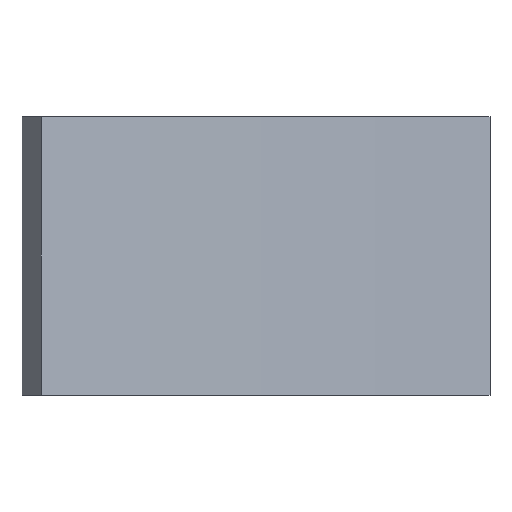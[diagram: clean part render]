
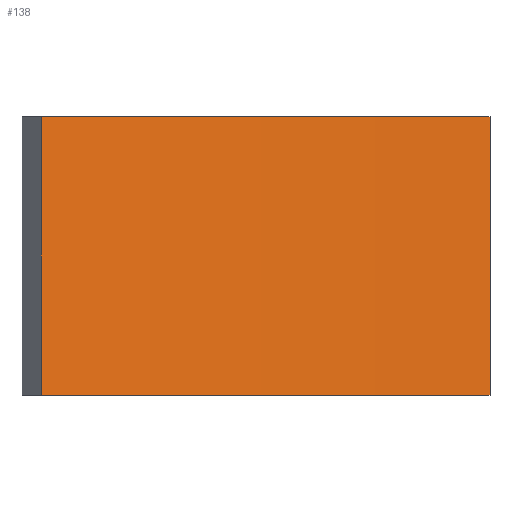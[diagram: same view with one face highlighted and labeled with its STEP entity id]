
A CAD part, front view. The second image highlights one B-rep face of the part: STEP entity #138.
In plain terms, the highlighted cylindrical face has radius 9.5 mm (diameter 19 mm), a partial arc.
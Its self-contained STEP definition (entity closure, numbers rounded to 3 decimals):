
#22 = VERTEX_POINT('',#23);
#23 = CARTESIAN_POINT('',(-1.877,9.313,0.993));
#31 = EDGE_CURVE('',#22,#32,#34,.T.);
#32 = VERTEX_POINT('',#33);
#33 = CARTESIAN_POINT('',(-1.877,9.313,2.287));
#34 = LINE('',#35,#36);
#35 = CARTESIAN_POINT('',(-1.877,9.313,-10.));
#36 = VECTOR('',#37,1.);
#37 = DIRECTION('',(0.,0.,1.));
#62 = VERTEX_POINT('',#63);
#63 = CARTESIAN_POINT('',(-3.961,8.635,0.993));
#71 = EDGE_CURVE('',#22,#62,#72,.T.);
#72 = CIRCLE('',#73,9.5);
#73 = AXIS2_PLACEMENT_3D('',#74,#75,#76);
#74 = CARTESIAN_POINT('',(0.,0.,0.993));
#75 = DIRECTION('',(0.,0.,1.));
#76 = DIRECTION('',(1.,0.,0.));
#118 = VERTEX_POINT('',#119);
#119 = CARTESIAN_POINT('',(-3.961,8.635,2.287));
#125 = EDGE_CURVE('',#32,#118,#126,.T.);
#126 = CIRCLE('',#127,9.5);
#127 = AXIS2_PLACEMENT_3D('',#128,#129,#130);
#128 = CARTESIAN_POINT('',(0.,0.,2.287));
#129 = DIRECTION('',(0.,0.,1.));
#130 = DIRECTION('',(1.,0.,0.));
#138 = ADVANCED_FACE('',(#139),#150,.F.);
#139 = FACE_BOUND('',#140,.F.);
#140 = EDGE_LOOP('',(#141,#142,#143,#149));
#141 = ORIENTED_EDGE('',*,*,#31,.F.);
#142 = ORIENTED_EDGE('',*,*,#71,.T.);
#143 = ORIENTED_EDGE('',*,*,#144,.T.);
#144 = EDGE_CURVE('',#62,#118,#145,.T.);
#145 = LINE('',#146,#147);
#146 = CARTESIAN_POINT('',(-3.961,8.635,-10.));
#147 = VECTOR('',#148,1.);
#148 = DIRECTION('',(0.,0.,1.));
#149 = ORIENTED_EDGE('',*,*,#125,.F.);
#150 = CYLINDRICAL_SURFACE('',#151,9.5);
#151 = AXIS2_PLACEMENT_3D('',#152,#153,#154);
#152 = CARTESIAN_POINT('',(0.,0.,-10.));
#153 = DIRECTION('',(0.,0.,1.));
#154 = DIRECTION('',(1.,0.,0.));
